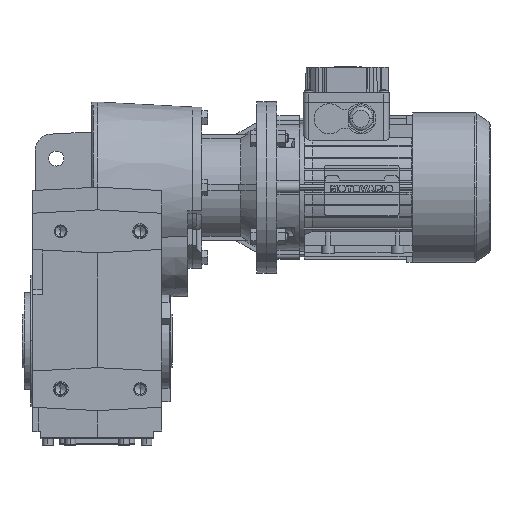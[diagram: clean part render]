
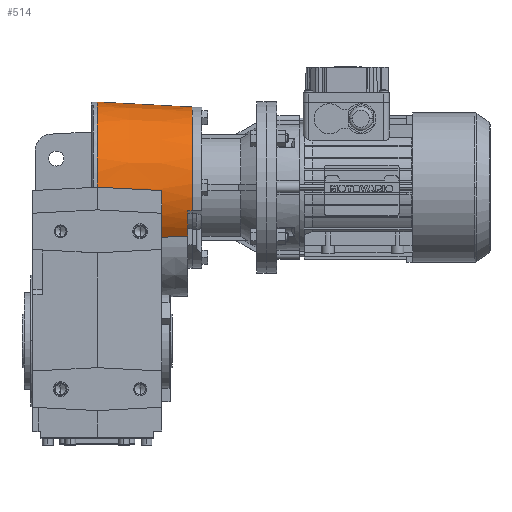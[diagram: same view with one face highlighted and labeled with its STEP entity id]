
A CAD part, top view. The second image highlights one B-rep face of the part: STEP entity #514.
In plain terms, the highlighted conical face has half-angle 3 degrees and reference radius 77.319 mm.
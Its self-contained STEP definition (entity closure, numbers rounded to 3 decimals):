
#514 = ADVANCED_FACE( '', ( #2843 ), #2844, .T. );
#2843 = FACE_OUTER_BOUND( '', #7659, .T. );
#2844 = CONICAL_SURFACE( '', #7660, 77.319, 0.052 );
#7659 = EDGE_LOOP( '', ( #12513, #12514, #12515, #12516, #12517, #12518, #12519, #12520 ) );
#7660 = AXIS2_PLACEMENT_3D( '', #12521, #12522, #12523 );
#12513 = ORIENTED_EDGE( '', *, *, #32123, .F. );
#12514 = ORIENTED_EDGE( '', *, *, #32101, .T. );
#12515 = ORIENTED_EDGE( '', *, *, #32124, .F. );
#12516 = ORIENTED_EDGE( '', *, *, #32125, .F. );
#12517 = ORIENTED_EDGE( '', *, *, #32126, .T. );
#12518 = ORIENTED_EDGE( '', *, *, #32127, .T. );
#12519 = ORIENTED_EDGE( '', *, *, #32128, .T. );
#12520 = ORIENTED_EDGE( '', *, *, #32129, .F. );
#12521 = CARTESIAN_POINT( '', ( 106.25, 143., 0. ) );
#12522 = DIRECTION( '', ( -1., 0., 0. ) );
#12523 = DIRECTION( '', ( 0., 1., 0. ) );
#32101 = EDGE_CURVE( '', #38435, #38443, #38445, .T. );
#32123 = EDGE_CURVE( '', #38435, #38488, #38489, .T. );
#32124 = EDGE_CURVE( '', #38490, #38443, #38491, .T. );
#32125 = EDGE_CURVE( '', #38492, #38490, #38493, .T. );
#32126 = EDGE_CURVE( '', #38492, #38494, #38495, .T. );
#32127 = EDGE_CURVE( '', #38494, #38496, #38497, .T. );
#32128 = EDGE_CURVE( '', #38496, #38498, #38499, .T. );
#32129 = EDGE_CURVE( '', #38488, #38498, #38500, .T. );
#38435 = VERTEX_POINT( '', #48960 );
#38443 = VERTEX_POINT( '', #48969 );
#38445 = CIRCLE( '', #48980, 79.638 );
#38488 = VERTEX_POINT( '', #49041 );
#38489 = LINE( '', #49042, #49043 );
#38490 = VERTEX_POINT( '', #49044 );
#38491 = B_SPLINE_CURVE_WITH_KNOTS( '', 2, ( #49045, #49046, #49047 ), .UNSPECIFIED., .F., .F., ( 3, 3 ), ( 0., 60.168 ), .UNSPECIFIED. );
#38492 = VERTEX_POINT( '', #49048 );
#38493 = CIRCLE( '', #49049, 76.494 );
#38494 = VERTEX_POINT( '', #49050 );
#38495 = B_SPLINE_CURVE_WITH_KNOTS( '', 3, ( #49051, #49052, #49053, #49054 ), .UNSPECIFIED., .F., .F., ( 4, 4 ), ( 0.994, 23.888 ), .UNSPECIFIED. );
#38496 = VERTEX_POINT( '', #49055 );
#38497 = CIRCLE( '', #49056, 75.21 );
#38498 = VERTEX_POINT( '', #49057 );
#38499 = ( B_SPLINE_CURVE( 2, ( #49059, #49060, #49061 ), .UNSPECIFIED., .F., .F. )B_SPLINE_CURVE_WITH_KNOTS( ( 3, 3 ), ( 0., 4.008 ), .UNSPECIFIED. )RATIONAL_B_SPLINE_CURVE( ( 1., 1., 1. ) )BOUNDED_CURVE(  )REPRESENTATION_ITEM( '' )GEOMETRIC_REPRESENTATION_ITEM(  )CURVE(  ) );
#38500 = CIRCLE( '', #49068, 75. );
#48960 = CARTESIAN_POINT( '', ( 62., 222.638, 0. ) );
#48969 = CARTESIAN_POINT( '', ( 62., 143.144, 79.638 ) );
#48980 = AXIS2_PLACEMENT_3D( '', #65912, #65913, #65914 );
#49041 = CARTESIAN_POINT( '', ( 150.5, 218., 0. ) );
#49042 = CARTESIAN_POINT( '', ( 106.25, 220.319, 0. ) );
#49043 = VECTOR( '', #65957, 1. );
#49044 = CARTESIAN_POINT( '', ( 122., 140., 76.435 ) );
#49045 = CARTESIAN_POINT( '', ( 122., 140., 76.435 ) );
#49046 = CARTESIAN_POINT( '', ( 92.616, 141.54, 78.036 ) );
#49047 = CARTESIAN_POINT( '', ( 62., 143.144, 79.638 ) );
#49048 = CARTESIAN_POINT( '', ( 122., 96.521, 60.753 ) );
#49049 = AXIS2_PLACEMENT_3D( '', #65958, #65959, #65960 );
#49050 = CARTESIAN_POINT( '', ( 146.5, 97.633, 59.986 ) );
#49051 = CARTESIAN_POINT( '', ( 122., 96.521, 60.753 ) );
#49052 = CARTESIAN_POINT( '', ( 129.737, 96.876, 60.514 ) );
#49053 = CARTESIAN_POINT( '', ( 138.763, 97.285, 60.231 ) );
#49054 = CARTESIAN_POINT( '', ( 146.5, 97.633, 59.986 ) );
#49055 = CARTESIAN_POINT( '', ( 146.5, 121.135, 71.961 ) );
#49056 = AXIS2_PLACEMENT_3D( '', #65961, #65962, #65963 );
#49057 = CARTESIAN_POINT( '', ( 150.5, 121.071, 71.723 ) );
#49059 = CARTESIAN_POINT( '', ( 146.5, 121.135, 71.961 ) );
#49060 = CARTESIAN_POINT( '', ( 148.504, 121.103, 71.842 ) );
#49061 = CARTESIAN_POINT( '', ( 150.5, 121.071, 71.723 ) );
#49068 = AXIS2_PLACEMENT_3D( '', #65964, #65965, #65966 );
#65912 = CARTESIAN_POINT( '', ( 62., 143., 0. ) );
#65913 = DIRECTION( '', ( 1., 0., 0. ) );
#65914 = DIRECTION( '', ( 0., 1., 0. ) );
#65957 = DIRECTION( '', ( 0.999, -0.052, 0. ) );
#65958 = CARTESIAN_POINT( '', ( 122., 143., 0. ) );
#65959 = DIRECTION( '', ( -1., 0., 0. ) );
#65960 = DIRECTION( '', ( 0., 1., 0. ) );
#65961 = CARTESIAN_POINT( '', ( 146.5, 143., 0. ) );
#65962 = DIRECTION( '', ( -1., 0., 0. ) );
#65963 = DIRECTION( '', ( 0., 1., 0. ) );
#65964 = CARTESIAN_POINT( '', ( 150.5, 143., 0. ) );
#65965 = DIRECTION( '', ( 1., 0., 0. ) );
#65966 = DIRECTION( '', ( 0., 1., 0. ) );
